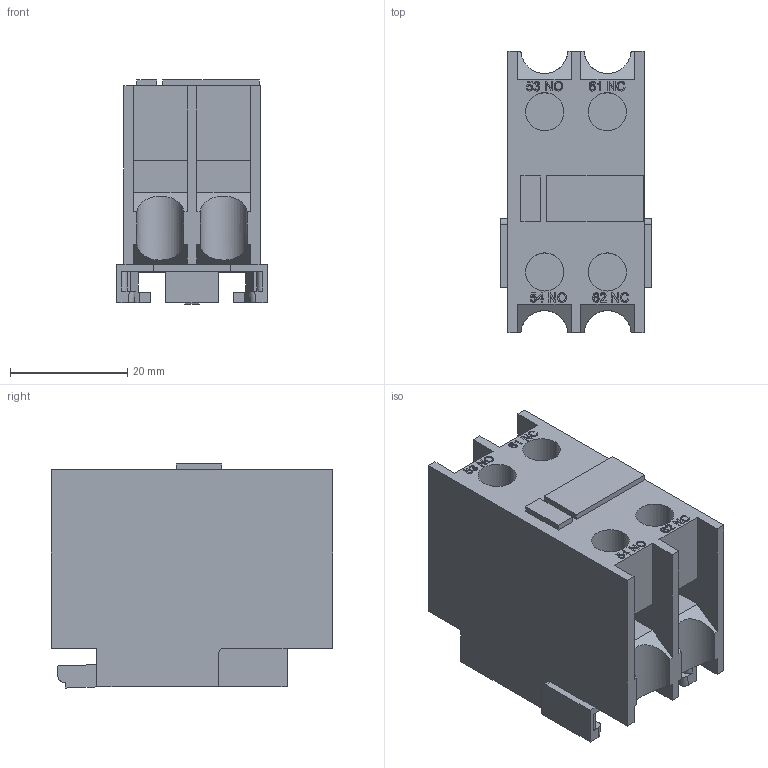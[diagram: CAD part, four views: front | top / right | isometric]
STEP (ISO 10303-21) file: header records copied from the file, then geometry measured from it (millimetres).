
FILE_DESCRIPTION (( 'STEP AP214' ), '1' );
FILE_NAME ('ﾏﾊﾋ-11.STEP', '2021-06-02T10:50:05', ( '' ), ( '' ), 'SwSTEP 2.0', 'SolidWorks 2018', '' );
FILE_SCHEMA (( 'AUTOMOTIVE_DESIGN' ));
Length unit declared in the file: millimetre
Products named in the file (1): ﾏﾊﾋ-11
Bounding box: 25.6 x 48 x 38.19 mm (x, y, z)
Volume: 27618.2 mm3; surface area: 10774 mm2
Topology: 1 solids, 1 shells, 347 faces, 962 edges, 640 vertices
Faces by surface type: plane 222, bspline 105, cylinder 20
Entity records: 17292 total; most frequent: CARTESIAN_POINT 9091, ORIENTED_EDGE 1924, DIRECTION 1254, EDGE_CURVE 962, VECTOR 712, LINE 712, VERTEX_POINT 640, EDGE_LOOP 378
